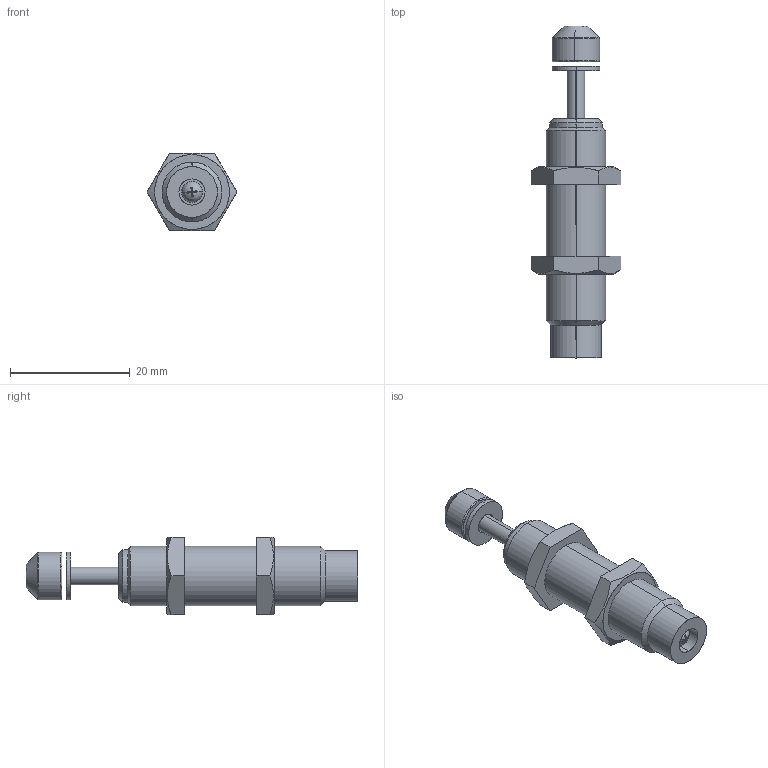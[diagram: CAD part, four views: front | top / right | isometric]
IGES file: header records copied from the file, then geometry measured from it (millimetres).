
Start section: SolidWorks IGES file using analytic representation for surfaces
Global section: file name: Y:\CAD\HP梡CAD僨乕僞\210305_HP峏怴梡\3D\FK-1008-R.IGS; native system: SolidWorks 2021; preprocessor: SolidWorks 2021; author: flgijutsu; date: 210310.160755; units: millimetre
Bounding box: 15.01 x 55.5 x 13 mm (x, y, z)
Surface area: 2509.3 mm2 (no closed solid volume)
Topology: 0 solids, 0 shells, 74 faces, 1078 edges, 1078 vertices
Faces by surface type: bspline 40, revolution 34
